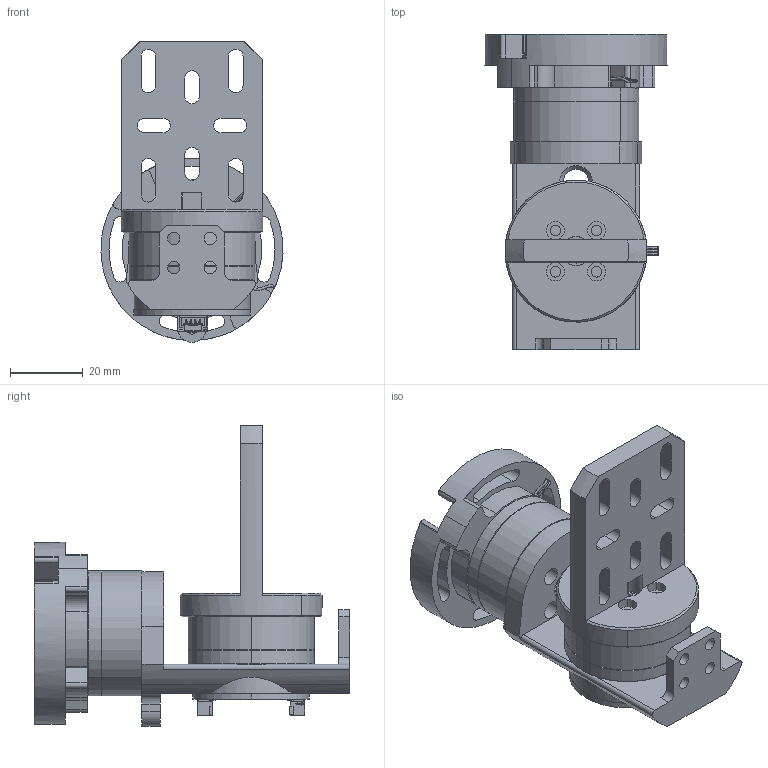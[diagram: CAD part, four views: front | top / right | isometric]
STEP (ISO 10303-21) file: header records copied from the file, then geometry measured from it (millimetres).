
FILE_DESCRIPTION (( 'STEP AP203' ), '1' );
FILE_NAME ('二维云台总装配体-分享版.STEP', '2025-10-15T15:33:28', ( '' ), ( '' ), 'SwSTEP 2.0', 'SolidWorks 2024', '' );
FILE_SCHEMA (( 'CONFIG_CONTROL_DESIGN' ));
Length unit declared in the file: millimetre
Products named in the file (15): 2804直流无刷总装配体-螺纹固定款; 2804线圈(2); 直流无刷电机2804-定子(2); 转子轴(2); 转子壳(2); 二维云台总装配体-分享版; 2804电机转子组件(2); 2804直流无刷总装配体-螺纹固定款(2); 一级转台; AS5600磁编码器-圆; 转子磁铁(2); 底座; MZ128ZZ深沟球轴承(2); 直流无刷电机2804-径向磁铁(2); 二级转台
Assembly tree (17 placements, depth 5):
  二维云台总装配体-分享版
    底座
    AS5600磁编码器-圆  x2
    一级转台
    二级转台
    2804直流无刷总装配体-螺纹固定款  x2
      2804直流无刷总装配体-螺纹固定款(2)
        2804电机转子组件(2)
          转子壳(2)
          转子轴(2)
          转子磁铁(2)
        直流无刷电机2804-定子(2)
        直流无刷电机2804-径向磁铁(2)
        2804线圈(2)
        MZ128ZZ深沟球轴承(2)  x2
Bounding box: 49.97 x 86.5 x 82.5 mm (x, y, z)
Volume: 62122.5 mm3; surface area: 55412 mm2
Topology: 131 solids, 131 shells, 4629 faces, 11860 edges, 7559 vertices
Faces by surface type: plane 2654, cylinder 881, bspline 772, torus 180, sphere 112, cone 30
Entity records: 82758 total; most frequent: CARTESIAN_POINT 23176, ORIENTED_EDGE 12578, DIRECTION 10819, EDGE_CURVE 6289, VECTOR 4243, LINE 4243, VERTEX_POINT 4039, AXIS2_PLACEMENT_3D 3288
